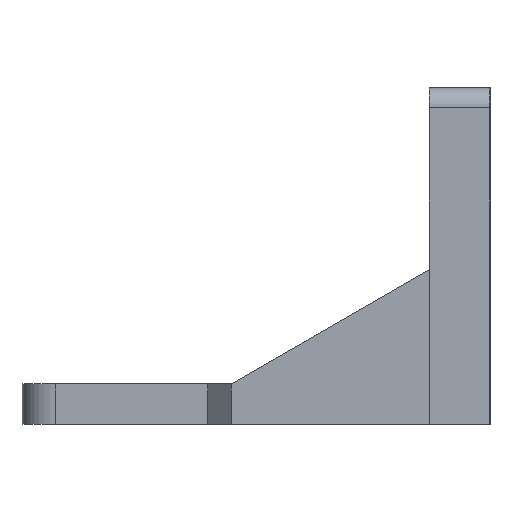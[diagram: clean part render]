
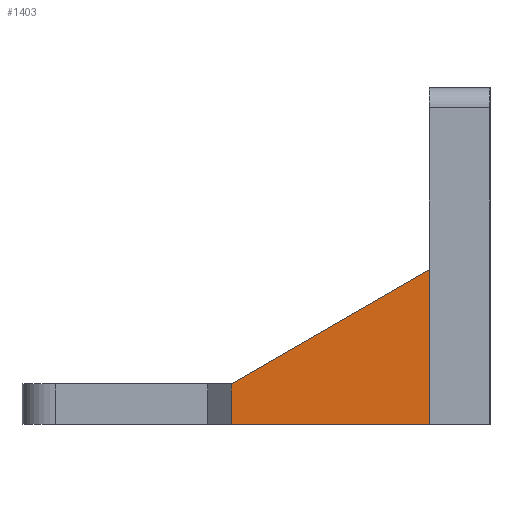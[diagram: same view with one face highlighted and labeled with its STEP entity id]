
A CAD part, left-side view. The second image highlights one B-rep face of the part: STEP entity #1403.
In plain terms, the highlighted planar face has unit normal (-1, 0, 0).
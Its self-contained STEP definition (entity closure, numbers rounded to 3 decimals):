
#8 = DIRECTION ( 'NONE',  ( 0., 0.866, -0.5 ) ) ;
#9 = CARTESIAN_POINT ( 'NONE',  ( -34., 38.445, -19. ) ) ;
#10 = LINE ( 'NONE', #9, #497 ) ;
#41 = DIRECTION ( 'NONE',  ( 0., 0., 1. ) ) ;
#42 = CARTESIAN_POINT ( 'NONE',  ( -34., 9., -25. ) ) ;
#43 = LINE ( 'NONE', #42, #1936 ) ;
#182 = CARTESIAN_POINT ( 'NONE',  ( -34., 38.445, -19. ) ) ;
#184 = CARTESIAN_POINT ( 'NONE',  ( -34., 9., -2. ) ) ;
#189 = CARTESIAN_POINT ( 'NONE',  ( -34., 38.445, -25. ) ) ;
#190 = CARTESIAN_POINT ( 'NONE',  ( -34., 9., -25. ) ) ;
#399 = DIRECTION ( 'NONE',  ( 0., 0., -1. ) ) ;
#497 = VECTOR ( 'NONE', #8, 1000. ) ;
#525 = VECTOR ( 'NONE', #399, 1000. ) ;
#553 = CARTESIAN_POINT ( 'NONE',  ( -34., 38.445, -19. ) ) ;
#574 = ORIENTED_EDGE ( 'NONE', *, *, #1212, .T. ) ;
#606 = LINE ( 'NONE', #553, #525 ) ;
#855 = ORIENTED_EDGE ( 'NONE', *, *, #1871, .T. ) ;
#1008 = VERTEX_POINT ( 'NONE', #190 ) ;
#1014 = VERTEX_POINT ( 'NONE', #189 ) ;
#1023 = VERTEX_POINT ( 'NONE', #184 ) ;
#1037 = VERTEX_POINT ( 'NONE', #182 ) ;
#1192 = EDGE_CURVE ( 'NONE', #1008, #1023, #43, .T. ) ;
#1212 = EDGE_CURVE ( 'NONE', #1023, #1037, #10, .T. ) ;
#1297 = ORIENTED_EDGE ( 'NONE', *, *, #1192, .T. ) ;
#1358 = EDGE_CURVE ( 'NONE', #1014, #1008, #1605, .T. ) ;
#1365 = DIRECTION ( 'NONE',  ( 0., -1., 0. ) ) ;
#1369 = DIRECTION ( 'NONE',  ( -1., 0., 0. ) ) ;
#1370 = CARTESIAN_POINT ( 'NONE',  ( -34., 0., 0. ) ) ;
#1377 = PLANE ( 'NONE',  #1624 ) ;
#1403 = ADVANCED_FACE ( 'NONE', ( #1639 ), #1377, .T. ) ;
#1574 = DIRECTION ( 'NONE',  ( 0., -1., 0. ) ) ;
#1575 = CARTESIAN_POINT ( 'NONE',  ( -34., 38.445, -25. ) ) ;
#1605 = LINE ( 'NONE', #1575, #1742 ) ;
#1624 = AXIS2_PLACEMENT_3D ( 'NONE', #1370, #1369, #1365 ) ;
#1639 = FACE_OUTER_BOUND ( 'NONE', #1999, .T. ) ;
#1742 = VECTOR ( 'NONE', #1574, 1000. ) ;
#1845 = ORIENTED_EDGE ( 'NONE', *, *, #1358, .T. ) ;
#1871 = EDGE_CURVE ( 'NONE', #1037, #1014, #606, .T. ) ;
#1936 = VECTOR ( 'NONE', #41, 1000. ) ;
#1999 = EDGE_LOOP ( 'NONE', ( #1845, #1297, #574, #855 ) ) ;
